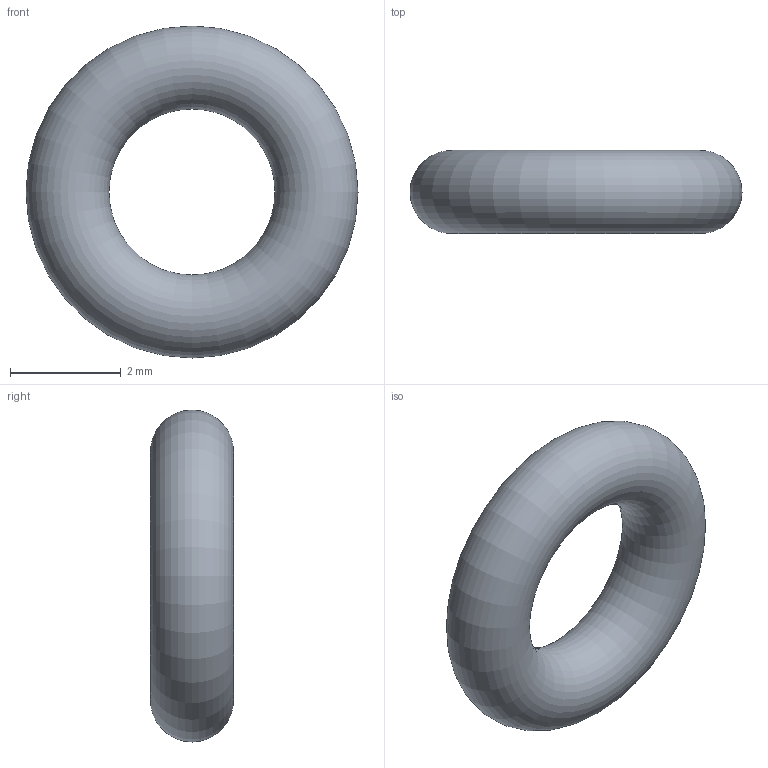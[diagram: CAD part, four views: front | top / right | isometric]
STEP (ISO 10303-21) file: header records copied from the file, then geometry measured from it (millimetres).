
FILE_DESCRIPTION( ( 'STEP AP203' ), '1' );
FILE_NAME( 'C:/Temp/Ganter_Step_05_03_2020/data/3_5/or638/O-Ring OR638-3.00-1.50-70.stp', '2020-03-12T13:44:16', ( 'License CC BY-ND 4.0' ), ( 'CADENAS' ), ' ', 'PARTsolutions', ' ' );
FILE_SCHEMA( ( 'CONFIG_CONTROL_DESIGN' ) );
Length unit declared in the file: millimetre
Products named in the file (1): _O-Ring OR638-3.00-1.50-70
Bounding box: 6 x 1.5 x 6 mm (x, y, z)
Volume: 25 mm3; surface area: 66.6 mm2
Topology: 1 solids, 1 shells, 1 faces, 2 edges, 1 vertices
Faces by surface type: torus 1
Entity records: 62 total; most frequent: CC_DESIGN_PERSON_AND_ORGANIZATION_ASSIGNMENT 5, PERSON_AND_ORGANIZATION_ROLE 4, DIRECTION 4, CARTESIAN_POINT 3, DATE_TIME_ROLE 2, CC_DESIGN_DATE_AND_TIME_ASSIGNMENT 2, AXIS2_PLACEMENT_3D 2, DIMENSIONAL_EXPONENTS 2
